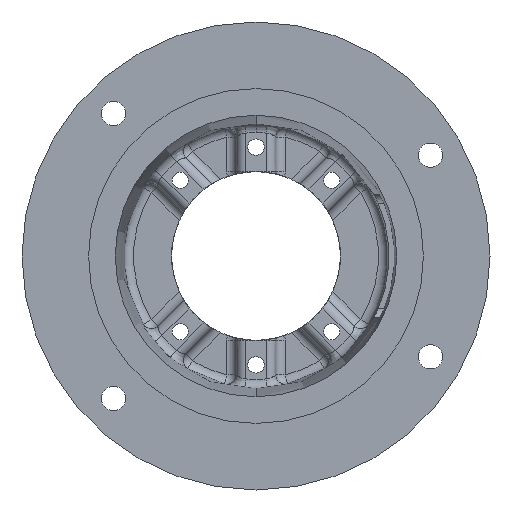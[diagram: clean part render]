
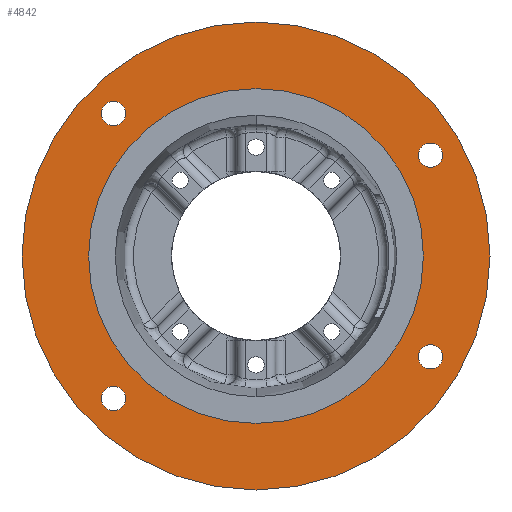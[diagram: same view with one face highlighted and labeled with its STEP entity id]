
A CAD part, front view. The second image highlights one B-rep face of the part: STEP entity #4842.
In plain terms, the highlighted planar face has unit normal (0, -1, 0).
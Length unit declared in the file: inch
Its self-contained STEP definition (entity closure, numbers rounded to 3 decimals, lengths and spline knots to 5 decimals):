
#26 = FACE_BOUND ( 'NONE', #5531, .T. ) ;
#53 = CARTESIAN_POINT ( 'NONE',  ( 0., 0., -3.2195 ) ) ;
#159 = CARTESIAN_POINT ( 'NONE',  ( 3.35585, 0., 2.17188 ) ) ;
#241 = VERTEX_POINT ( 'NONE', #159 ) ;
#318 = EDGE_CURVE ( 'NONE', #2676, #4736, #530, .T. ) ;
#377 = ORIENTED_EDGE ( 'NONE', *, *, #3898, .F. ) ;
#407 = ORIENTED_EDGE ( 'NONE', *, *, #3460, .F. ) ;
#530 = CIRCLE ( 'NONE', #5532, 0.23438 ) ;
#581 = AXIS2_PLACEMENT_3D ( 'NONE', #1447, #1292, #1375 ) ;
#633 = ORIENTED_EDGE ( 'NONE', *, *, #318, .F. ) ;
#712 = CIRCLE ( 'NONE', #6093, 0.23437 ) ;
#776 = ORIENTED_EDGE ( 'NONE', *, *, #5197, .F. ) ;
#839 = ORIENTED_EDGE ( 'NONE', *, *, #3110, .F. ) ;
#938 = CARTESIAN_POINT ( 'NONE',  ( -2.74004, 0., -2.97441 ) ) ;
#967 = CARTESIAN_POINT ( 'NONE',  ( -2.74004, 0., 2.50566 ) ) ;
#1061 = VERTEX_POINT ( 'NONE', #1175 ) ;
#1065 = CARTESIAN_POINT ( 'NONE',  ( 3.35585, 0., -2.17187 ) ) ;
#1109 = CARTESIAN_POINT ( 'NONE',  ( 3.35585, 0., -1.70312 ) ) ;
#1141 = VERTEX_POINT ( 'NONE', #938 ) ;
#1149 = DIRECTION ( 'NONE',  ( 0., 0., -1. ) ) ;
#1155 = DIRECTION ( 'NONE',  ( 0., -1., 0. ) ) ;
#1169 = CARTESIAN_POINT ( 'NONE',  ( 0., 0., 0. ) ) ;
#1175 = CARTESIAN_POINT ( 'NONE',  ( 0., 0., 3.2195 ) ) ;
#1214 = CIRCLE ( 'NONE', #5121, 0.23438 ) ;
#1222 = DIRECTION ( 'NONE',  ( 0., 0., -1. ) ) ;
#1237 = DIRECTION ( 'NONE',  ( 0., -1., 0. ) ) ;
#1260 = FACE_BOUND ( 'NONE', #4247, .T. ) ;
#1262 = CARTESIAN_POINT ( 'NONE',  ( -2.74004, 0., -2.74004 ) ) ;
#1292 = DIRECTION ( 'NONE',  ( 0., -1., 0. ) ) ;
#1305 = CARTESIAN_POINT ( 'NONE',  ( -2.74004, 0., 2.97441 ) ) ;
#1311 = ORIENTED_EDGE ( 'NONE', *, *, #1647, .T. ) ;
#1368 = ORIENTED_EDGE ( 'NONE', *, *, #2399, .F. ) ;
#1375 = DIRECTION ( 'NONE',  ( 0., 0., -1. ) ) ;
#1377 = ORIENTED_EDGE ( 'NONE', *, *, #5551, .T. ) ;
#1431 = FACE_BOUND ( 'NONE', #6130, .T. ) ;
#1438 = EDGE_LOOP ( 'NONE', ( #1377, #1311 ) ) ;
#1447 = CARTESIAN_POINT ( 'NONE',  ( 3.35585, 0., -1.9375 ) ) ;
#1495 = EDGE_LOOP ( 'NONE', ( #407, #633 ) ) ;
#1647 = EDGE_CURVE ( 'NONE', #4182, #3950, #2542, .T. ) ;
#1699 = DIRECTION ( 'NONE',  ( 0., 0., -1. ) ) ;
#1739 = DIRECTION ( 'NONE',  ( 0., -1., 0. ) ) ;
#1749 = CARTESIAN_POINT ( 'NONE',  ( -2.74004, 0., 2.74004 ) ) ;
#1794 = CIRCLE ( 'NONE', #3365, 0.23437 ) ;
#1874 = AXIS2_PLACEMENT_3D ( 'NONE', #2317, #2294, #2272 ) ;
#2021 = ORIENTED_EDGE ( 'NONE', *, *, #6179, .F. ) ;
#2023 = VERTEX_POINT ( 'NONE', #5111 ) ;
#2169 = EDGE_LOOP ( 'NONE', ( #5108, #1368 ) ) ;
#2179 = VERTEX_POINT ( 'NONE', #3652 ) ;
#2272 = DIRECTION ( 'NONE',  ( 0., 0., -1. ) ) ;
#2294 = DIRECTION ( 'NONE',  ( 0., -1., 0. ) ) ;
#2317 = CARTESIAN_POINT ( 'NONE',  ( 0., 0., 0. ) ) ;
#2361 = CARTESIAN_POINT ( 'NONE',  ( -4.5, 0., 0. ) ) ;
#2399 = EDGE_CURVE ( 'NONE', #4458, #3580, #3060, .T. ) ;
#2476 = DIRECTION ( 'NONE',  ( 0., 0., -1. ) ) ;
#2485 = DIRECTION ( 'NONE',  ( 0., -1., 0. ) ) ;
#2487 = CARTESIAN_POINT ( 'NONE',  ( 0., 0., 4.5 ) ) ;
#2495 = CARTESIAN_POINT ( 'NONE',  ( 3.35585, 0., -1.9375 ) ) ;
#2542 = CIRCLE ( 'NONE', #5079, 4.5 ) ;
#2549 = AXIS2_PLACEMENT_3D ( 'NONE', #1169, #1155, #1149 ) ;
#2571 = CIRCLE ( 'NONE', #6467, 3.2195 ) ;
#2637 = FACE_BOUND ( 'NONE', #1495, .T. ) ;
#2676 = VERTEX_POINT ( 'NONE', #1305 ) ;
#2806 = FACE_BOUND ( 'NONE', #2169, .T. ) ;
#3041 = PLANE ( 'NONE',  #5283 ) ;
#3060 = CIRCLE ( 'NONE', #5508, 0.23438 ) ;
#3110 = EDGE_CURVE ( 'NONE', #2023, #241, #1214, .T. ) ;
#3187 = EDGE_CURVE ( 'NONE', #3580, #4458, #4959, .T. ) ;
#3205 = CIRCLE ( 'NONE', #1874, 4.5 ) ;
#3262 = CARTESIAN_POINT ( 'NONE',  ( 0., 0., -4.5 ) ) ;
#3323 = CIRCLE ( 'NONE', #5430, 0.23438 ) ;
#3325 = EDGE_CURVE ( 'NONE', #1141, #2179, #1794, .T. ) ;
#3365 = AXIS2_PLACEMENT_3D ( 'NONE', #4266, #4253, #4242 ) ;
#3436 = DIRECTION ( 'NONE',  ( 0., 1., 0. ) ) ;
#3460 = EDGE_CURVE ( 'NONE', #4736, #2676, #3715, .T. ) ;
#3528 = DIRECTION ( 'NONE',  ( 0., 0., 1. ) ) ;
#3552 = EDGE_CURVE ( 'NONE', #6395, #1061, #4717, .T. ) ;
#3580 = VERTEX_POINT ( 'NONE', #1065 ) ;
#3652 = CARTESIAN_POINT ( 'NONE',  ( -2.74004, 0., -2.50566 ) ) ;
#3715 = CIRCLE ( 'NONE', #6321, 0.23438 ) ;
#3898 = EDGE_CURVE ( 'NONE', #241, #2023, #3323, .T. ) ;
#3950 = VERTEX_POINT ( 'NONE', #3262 ) ;
#4182 = VERTEX_POINT ( 'NONE', #2487 ) ;
#4242 = DIRECTION ( 'NONE',  ( 0., 0., -1. ) ) ;
#4247 = EDGE_LOOP ( 'NONE', ( #5638, #776 ) ) ;
#4253 = DIRECTION ( 'NONE',  ( 0., -1., 0. ) ) ;
#4266 = CARTESIAN_POINT ( 'NONE',  ( -2.74004, 0., -2.74004 ) ) ;
#4300 = ORIENTED_EDGE ( 'NONE', *, *, #3325, .F. ) ;
#4458 = VERTEX_POINT ( 'NONE', #1109 ) ;
#4509 = DIRECTION ( 'NONE',  ( 0., 0., -1. ) ) ;
#4533 = DIRECTION ( 'NONE',  ( 0., -1., 0. ) ) ;
#4553 = CARTESIAN_POINT ( 'NONE',  ( 3.35585, 0., 1.9375 ) ) ;
#4677 = DIRECTION ( 'NONE',  ( 0., -1., 0. ) ) ;
#4684 = CARTESIAN_POINT ( 'NONE',  ( 3.35585, 0., 1.9375 ) ) ;
#4717 = CIRCLE ( 'NONE', #2549, 3.2195 ) ;
#4723 = DIRECTION ( 'NONE',  ( 0., 0., -1. ) ) ;
#4736 = VERTEX_POINT ( 'NONE', #967 ) ;
#4842 = ADVANCED_FACE ( 'NONE', ( #1431, #2806, #26, #2637, #1260, #6445 ), #3041, .F. ) ;
#4959 = CIRCLE ( 'NONE', #581, 0.23438 ) ;
#5079 = AXIS2_PLACEMENT_3D ( 'NONE', #6310, #6304, #6294 ) ;
#5108 = ORIENTED_EDGE ( 'NONE', *, *, #3187, .F. ) ;
#5111 = CARTESIAN_POINT ( 'NONE',  ( 3.35585, 0., 1.70313 ) ) ;
#5121 = AXIS2_PLACEMENT_3D ( 'NONE', #4684, #4677, #4723 ) ;
#5197 = EDGE_CURVE ( 'NONE', #1061, #6395, #2571, .T. ) ;
#5216 = DIRECTION ( 'NONE',  ( 0., 0., -1. ) ) ;
#5237 = DIRECTION ( 'NONE',  ( 0., -1., 0. ) ) ;
#5283 = AXIS2_PLACEMENT_3D ( 'NONE', #2361, #3436, #3528 ) ;
#5430 = AXIS2_PLACEMENT_3D ( 'NONE', #4553, #4533, #4509 ) ;
#5508 = AXIS2_PLACEMENT_3D ( 'NONE', #2495, #2485, #2476 ) ;
#5531 = EDGE_LOOP ( 'NONE', ( #4300, #2021 ) ) ;
#5532 = AXIS2_PLACEMENT_3D ( 'NONE', #6232, #6223, #6189 ) ;
#5551 = EDGE_CURVE ( 'NONE', #3950, #4182, #3205, .T. ) ;
#5638 = ORIENTED_EDGE ( 'NONE', *, *, #3552, .F. ) ;
#5729 = CARTESIAN_POINT ( 'NONE',  ( 0., 0., 0. ) ) ;
#6093 = AXIS2_PLACEMENT_3D ( 'NONE', #1262, #1237, #1222 ) ;
#6130 = EDGE_LOOP ( 'NONE', ( #839, #377 ) ) ;
#6179 = EDGE_CURVE ( 'NONE', #2179, #1141, #712, .T. ) ;
#6189 = DIRECTION ( 'NONE',  ( 0., 0., -1. ) ) ;
#6223 = DIRECTION ( 'NONE',  ( 0., -1., 0. ) ) ;
#6232 = CARTESIAN_POINT ( 'NONE',  ( -2.74004, 0., 2.74004 ) ) ;
#6294 = DIRECTION ( 'NONE',  ( 0., 0., -1. ) ) ;
#6304 = DIRECTION ( 'NONE',  ( 0., -1., 0. ) ) ;
#6310 = CARTESIAN_POINT ( 'NONE',  ( 0., 0., 0. ) ) ;
#6321 = AXIS2_PLACEMENT_3D ( 'NONE', #1749, #1739, #1699 ) ;
#6395 = VERTEX_POINT ( 'NONE', #53 ) ;
#6445 = FACE_OUTER_BOUND ( 'NONE', #1438, .T. ) ;
#6467 = AXIS2_PLACEMENT_3D ( 'NONE', #5729, #5237, #5216 ) ;
